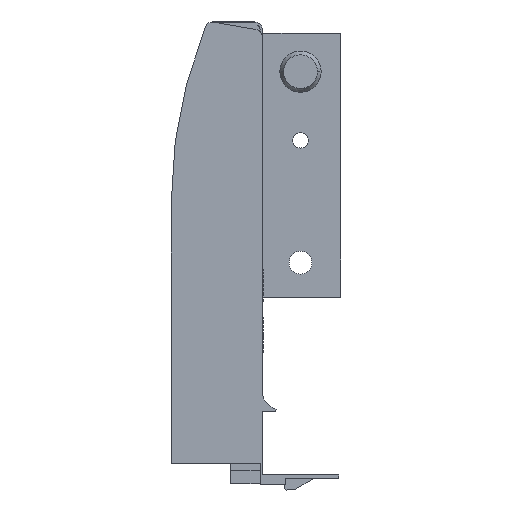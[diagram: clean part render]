
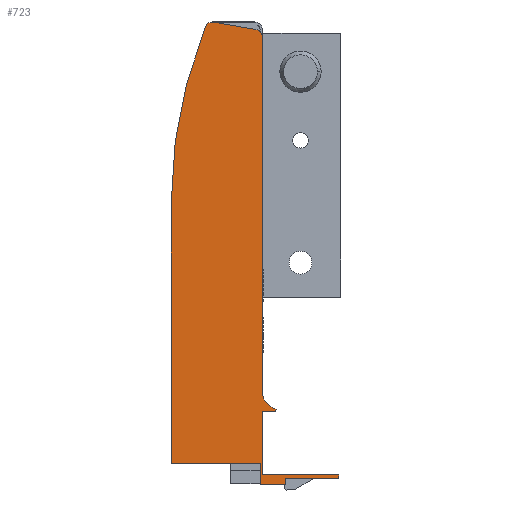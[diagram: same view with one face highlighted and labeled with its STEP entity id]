
A CAD part, front view. The second image highlights one B-rep face of the part: STEP entity #723.
In plain terms, the highlighted planar face has unit normal (0, -1, 0).
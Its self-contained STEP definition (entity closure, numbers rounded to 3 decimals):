
#25 = LINE ( 'NONE', #879, #27 ) ;
#27 = VECTOR ( 'NONE', #884, 1000. ) ;
#63 = VECTOR ( 'NONE', #195, 1000. ) ;
#65 = CIRCLE ( 'NONE', #656, 2. ) ;
#78 = LINE ( 'NONE', #182, #63 ) ;
#82 = CIRCLE ( 'NONE', #686, 2. ) ;
#95 = VECTOR ( 'NONE', #229, 1000. ) ;
#100 = LINE ( 'NONE', #228, #95 ) ;
#104 = LINE ( 'NONE', #230, #105 ) ;
#105 = VECTOR ( 'NONE', #231, 1000. ) ;
#116 = LINE ( 'NONE', #242, #117 ) ;
#117 = VECTOR ( 'NONE', #243, 1000. ) ;
#128 = LINE ( 'NONE', #254, #129 ) ;
#129 = VECTOR ( 'NONE', #255, 1000. ) ;
#163 = CARTESIAN_POINT ( 'NONE',  ( 8.5, 0., 100. ) ) ;
#174 = DIRECTION ( 'NONE',  ( 0., 1., 0. ) ) ;
#175 = DIRECTION ( 'NONE',  ( -1., 0., 0. ) ) ;
#182 = CARTESIAN_POINT ( 'NONE',  ( -2.3, 0., -13.5 ) ) ;
#194 = CARTESIAN_POINT ( 'NONE',  ( 19.5, 0., 98.06 ) ) ;
#195 = DIRECTION ( 'NONE',  ( -1., 0., 0. ) ) ;
#197 = DIRECTION ( 'NONE',  ( 0., 1., 0. ) ) ;
#198 = DIRECTION ( 'NONE',  ( -1., 0., 0. ) ) ;
#228 = CARTESIAN_POINT ( 'NONE',  ( -2.3, 0., -13.5 ) ) ;
#229 = DIRECTION ( 'NONE',  ( 0., 0., 1. ) ) ;
#230 = CARTESIAN_POINT ( 'NONE',  ( 8.847, 0., 101.97 ) ) ;
#231 = DIRECTION ( 'NONE',  ( 0.985, 0., -0.174 ) ) ;
#242 = CARTESIAN_POINT ( 'NONE',  ( 25.161, 0., 0.578 ) ) ;
#243 = DIRECTION ( 'NONE',  ( -0.268, 0., -0.963 ) ) ;
#254 = CARTESIAN_POINT ( 'NONE',  ( 21.5, 0., 98.06 ) ) ;
#255 = DIRECTION ( 'NONE',  ( 0., 0., -1. ) ) ;
#301 = CARTESIAN_POINT ( 'NONE',  ( 19.847, 0., 100.03 ) ) ;
#302 = CARTESIAN_POINT ( 'NONE',  ( 21.5, 0., 98.06 ) ) ;
#329 = CARTESIAN_POINT ( 'NONE',  ( 21.5, 0., 0. ) ) ;
#330 = CARTESIAN_POINT ( 'NONE',  ( 21.5, 0., -16.5 ) ) ;
#351 = CARTESIAN_POINT ( 'NONE',  ( 20.9, 0., -13.5 ) ) ;
#352 = CARTESIAN_POINT ( 'NONE',  ( -2.3, 0., -13.5 ) ) ;
#356 = CARTESIAN_POINT ( 'NONE',  ( 20.9, 0., -19.1 ) ) ;
#364 = CARTESIAN_POINT ( 'NONE',  ( 21.5, 0., 5.395 ) ) ;
#365 = CARTESIAN_POINT ( 'NONE',  ( 8.847, 0., 101.97 ) ) ;
#366 = CARTESIAN_POINT ( 'NONE',  ( 6.648, 0., 100.756 ) ) ;
#367 = CARTESIAN_POINT ( 'NONE',  ( -2.3, 0., 55.168 ) ) ;
#368 = CARTESIAN_POINT ( 'NONE',  ( 27.599, 0., -19.1 ) ) ;
#369 = CARTESIAN_POINT ( 'NONE',  ( 27.599, 0., -17.528 ) ) ;
#370 = CARTESIAN_POINT ( 'NONE',  ( 41.499, 0., -17.528 ) ) ;
#371 = CARTESIAN_POINT ( 'NONE',  ( 41.499, 0., -16.5 ) ) ;
#372 = CARTESIAN_POINT ( 'NONE',  ( 25., 0., 0. ) ) ;
#373 = CARTESIAN_POINT ( 'NONE',  ( 25.161, 0., 0.578 ) ) ;
#442 = ORIENTED_EDGE ( 'NONE', *, *, #1379, .F. ) ;
#455 = ORIENTED_EDGE ( 'NONE', *, *, #1253, .F. ) ;
#471 = ORIENTED_EDGE ( 'NONE', *, *, #1359, .F. ) ;
#475 = ORIENTED_EDGE ( 'NONE', *, *, #1393, .F. ) ;
#497 = ORIENTED_EDGE ( 'NONE', *, *, #1201, .F. ) ;
#505 = ORIENTED_EDGE ( 'NONE', *, *, #1323, .F. ) ;
#510 = ORIENTED_EDGE ( 'NONE', *, *, #1176, .F. ) ;
#513 = ORIENTED_EDGE ( 'NONE', *, *, #1145, .F. ) ;
#521 = ORIENTED_EDGE ( 'NONE', *, *, #1380, .F. ) ;
#537 = ORIENTED_EDGE ( 'NONE', *, *, #1114, .F. ) ;
#540 = ORIENTED_EDGE ( 'NONE', *, *, #1166, .F. ) ;
#543 = ORIENTED_EDGE ( 'NONE', *, *, #1358, .F. ) ;
#549 = ORIENTED_EDGE ( 'NONE', *, *, #1128, .F. ) ;
#552 = ORIENTED_EDGE ( 'NONE', *, *, #1292, .F. ) ;
#558 = ORIENTED_EDGE ( 'NONE', *, *, #1386, .F. ) ;
#575 = ORIENTED_EDGE ( 'NONE', *, *, #1343, .F. ) ;
#606 = ORIENTED_EDGE ( 'NONE', *, *, #1229, .F. ) ;
#656 = AXIS2_PLACEMENT_3D ( 'NONE', #163, #174, #175 ) ;
#686 = AXIS2_PLACEMENT_3D ( 'NONE', #194, #197, #198 ) ;
#698 = AXIS2_PLACEMENT_3D ( 'NONE', #992, #1022, #997 ) ;
#723 = ADVANCED_FACE ( 'NONE', ( #1693 ), #2263, .F. ) ;
#879 = CARTESIAN_POINT ( 'NONE',  ( 41.499, 0., -17.528 ) ) ;
#884 = DIRECTION ( 'NONE',  ( -1., 0., 0. ) ) ;
#907 = DIRECTION ( 'NONE',  ( 0., 0., -1. ) ) ;
#931 = CARTESIAN_POINT ( 'NONE',  ( 27.599, 0., -19.1 ) ) ;
#944 = DIRECTION ( 'NONE',  ( -1., 0., 0. ) ) ;
#992 = CARTESIAN_POINT ( 'NONE',  ( 118.3, 0., 55.168 ) ) ;
#997 = DIRECTION ( 'NONE',  ( -1., 0., 0. ) ) ;
#1022 = DIRECTION ( 'NONE',  ( 0., 1., 0. ) ) ;
#1062 = CARTESIAN_POINT ( 'NONE',  ( 27.599, 0., -17.528 ) ) ;
#1114 = EDGE_CURVE ( 'NONE', #2155, #2112, #1814, .T. ) ;
#1128 = EDGE_CURVE ( 'NONE', #2147, #2156, #1855, .T. ) ;
#1145 = EDGE_CURVE ( 'NONE', #2112, #2113, #1856, .T. ) ;
#1166 = EDGE_CURVE ( 'NONE', #2154, #2153, #1901, .T. ) ;
#1176 = EDGE_CURVE ( 'NONE', #2113, #2154, #1905, .T. ) ;
#1188 = AXIS2_PLACEMENT_3D ( 'NONE', #2596, #2599, #2600 ) ;
#1201 = EDGE_CURVE ( 'NONE', #2139, #2134, #1928, .T. ) ;
#1229 = EDGE_CURVE ( 'NONE', #2152, #2151, #1967, .T. ) ;
#1253 = EDGE_CURVE ( 'NONE', #2150, #2149, #1986, .T. ) ;
#1280 = AXIS2_PLACEMENT_3D ( 'NONE', #2266, #2272, #2273 ) ;
#1292 = EDGE_CURVE ( 'NONE', #2151, #2139, #2027, .T. ) ;
#1323 = EDGE_CURVE ( 'NONE', #2153, #2152, #25, .T. ) ;
#1343 = EDGE_CURVE ( 'NONE', #2149, #2148, #65, .T. ) ;
#1358 = EDGE_CURVE ( 'NONE', #2134, #2135, #78, .T. ) ;
#1359 = EDGE_CURVE ( 'NONE', #2084, #2085, #82, .T. ) ;
#1379 = EDGE_CURVE ( 'NONE', #2135, #2150, #100, .T. ) ;
#1380 = EDGE_CURVE ( 'NONE', #2148, #2084, #104, .T. ) ;
#1386 = EDGE_CURVE ( 'NONE', #2156, #2155, #116, .T. ) ;
#1393 = EDGE_CURVE ( 'NONE', #2085, #2147, #128, .T. ) ;
#1594 = EDGE_LOOP ( 'NONE', ( #475, #471, #521, #575, #455, #442, #543, #497, #552, #606, #505, #540, #510, #513, #537, #558, #549 ) ) ;
#1693 = FACE_OUTER_BOUND ( 'NONE', #1594, .T. ) ;
#1814 = LINE ( 'NONE', #2566, #1828 ) ;
#1828 = VECTOR ( 'NONE', #2569, 1000. ) ;
#1855 = CIRCLE ( 'NONE', #1188, 5. ) ;
#1856 = LINE ( 'NONE', #2598, #1864 ) ;
#1864 = VECTOR ( 'NONE', #2613, 1000. ) ;
#1901 = LINE ( 'NONE', #2660, #1902 ) ;
#1902 = VECTOR ( 'NONE', #2661, 1000. ) ;
#1905 = LINE ( 'NONE', #2673, #1913 ) ;
#1913 = VECTOR ( 'NONE', #2676, 1000. ) ;
#1928 = LINE ( 'NONE', #2691, #1929 ) ;
#1929 = VECTOR ( 'NONE', #2692, 1000. ) ;
#1967 = LINE ( 'NONE', #1062, #1968 ) ;
#1968 = VECTOR ( 'NONE', #907, 1000. ) ;
#1986 = CIRCLE ( 'NONE', #698, 120.6 ) ;
#2027 = LINE ( 'NONE', #931, #2033 ) ;
#2033 = VECTOR ( 'NONE', #944, 1000. ) ;
#2084 = VERTEX_POINT ( 'NONE', #301 ) ;
#2085 = VERTEX_POINT ( 'NONE', #302 ) ;
#2112 = VERTEX_POINT ( 'NONE', #329 ) ;
#2113 = VERTEX_POINT ( 'NONE', #330 ) ;
#2134 = VERTEX_POINT ( 'NONE', #351 ) ;
#2135 = VERTEX_POINT ( 'NONE', #352 ) ;
#2139 = VERTEX_POINT ( 'NONE', #356 ) ;
#2147 = VERTEX_POINT ( 'NONE', #364 ) ;
#2148 = VERTEX_POINT ( 'NONE', #365 ) ;
#2149 = VERTEX_POINT ( 'NONE', #366 ) ;
#2150 = VERTEX_POINT ( 'NONE', #367 ) ;
#2151 = VERTEX_POINT ( 'NONE', #368 ) ;
#2152 = VERTEX_POINT ( 'NONE', #369 ) ;
#2153 = VERTEX_POINT ( 'NONE', #370 ) ;
#2154 = VERTEX_POINT ( 'NONE', #371 ) ;
#2155 = VERTEX_POINT ( 'NONE', #372 ) ;
#2156 = VERTEX_POINT ( 'NONE', #373 ) ;
#2263 = PLANE ( 'NONE',  #1280 ) ;
#2266 = CARTESIAN_POINT ( 'NONE',  ( 8.75, 0., 61.5 ) ) ;
#2272 = DIRECTION ( 'NONE',  ( 0., 1., 0. ) ) ;
#2273 = DIRECTION ( 'NONE',  ( 0., 0., 1. ) ) ;
#2566 = CARTESIAN_POINT ( 'NONE',  ( 25., 0., 0. ) ) ;
#2569 = DIRECTION ( 'NONE',  ( -1., 0., 0. ) ) ;
#2596 = CARTESIAN_POINT ( 'NONE',  ( 26.5, 0., 5.395 ) ) ;
#2598 = CARTESIAN_POINT ( 'NONE',  ( 21.5, 0., 0. ) ) ;
#2599 = DIRECTION ( 'NONE',  ( 0., -1., 0. ) ) ;
#2600 = DIRECTION ( 'NONE',  ( -1., 0., 0. ) ) ;
#2613 = DIRECTION ( 'NONE',  ( 0., 0., -1. ) ) ;
#2660 = CARTESIAN_POINT ( 'NONE',  ( 41.499, 0., -16.5 ) ) ;
#2661 = DIRECTION ( 'NONE',  ( 0., 0., -1. ) ) ;
#2673 = CARTESIAN_POINT ( 'NONE',  ( 21.5, 0., -16.5 ) ) ;
#2676 = DIRECTION ( 'NONE',  ( 1., 0., 0. ) ) ;
#2691 = CARTESIAN_POINT ( 'NONE',  ( 20.9, 0., -19.1 ) ) ;
#2692 = DIRECTION ( 'NONE',  ( 0., 0., 1. ) ) ;
